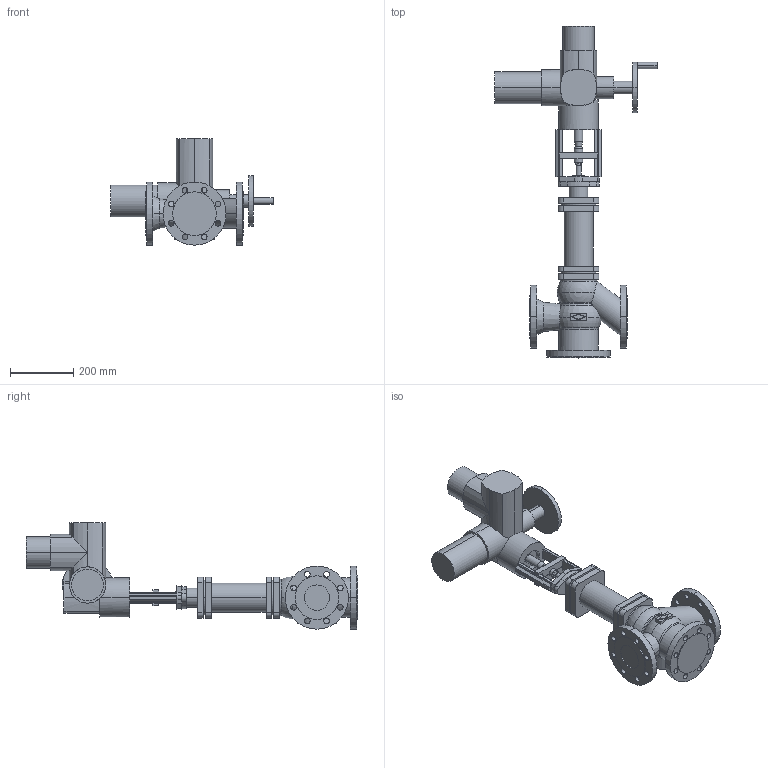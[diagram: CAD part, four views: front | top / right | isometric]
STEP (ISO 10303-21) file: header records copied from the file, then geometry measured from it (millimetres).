
FILE_DESCRIPTION(('OneSpaceDesigner STEP Export'),'2;1');
FILE_NAME('c000003222.stp','2007-01-25T12:06:41',(''),(''),'OneSpace Designer STEP processor for AP214 (Solid Model)','OneSpace Designer 14.00B 27-May-2006 (C) CoCreate Software GmbH','');
FILE_SCHEMA(('AUTOMOTIVE_DESIGN { 1 0 10303 214 1 1 1 1 }'));
Length unit declared in the file: millimetre
Products named in the file (2): 1; 2
Bounding box: 514 x 1051.7 x 337 mm (x, y, z)
Volume: 17530966.1 mm3; surface area: 985637.3 mm2
Topology: 2 solids, 2 shells, 358 faces, 936 edges, 601 vertices
Faces by surface type: cylinder 186, plane 147, torus 13, cone 8, sphere 4
Entity records: 10588 total; most frequent: CARTESIAN_POINT 2345, ORIENTED_EDGE 1864, DIRECTION 1524, EDGE_CURVE 932, VERTEX_POINT 601, AXIS2_PLACEMENT_3D 526, VECTOR 472, LINE 472
